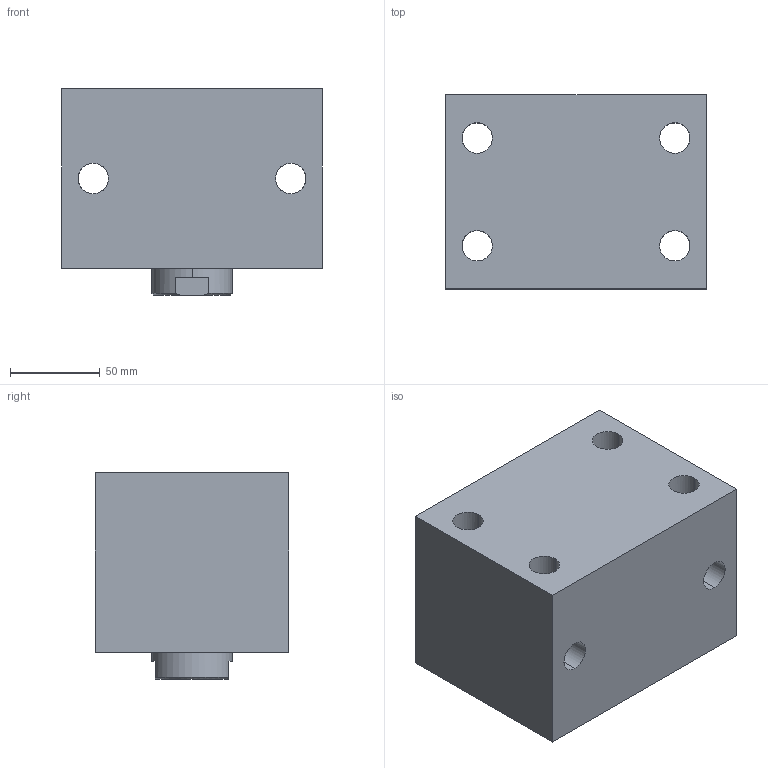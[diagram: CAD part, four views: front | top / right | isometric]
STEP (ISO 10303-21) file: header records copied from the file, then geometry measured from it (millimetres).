
FILE_DESCRIPTION (( 'STEP AP203' ), '1' );
FILE_NAME ('Block cylinder B01C-725F.STEP', '2022-07-09T18:35:43', ( '' ), ( '' ), 'SwSTEP 2.0', 'SolidWorks 2017', '' );
FILE_SCHEMA (( 'CONFIG_CONTROL_DESIGN' ));
Length unit declared in the file: millimetre
Products named in the file (3): Body_ 725F_50ST; Piston _725F; Block cylinder B01C-725F
Assembly tree (2 placements, depth 2):
  Block cylinder B01C-725F
    Body_ 725F_50ST
    Piston _725F
Bounding box: 145 x 108 x 115 mm (x, y, z)
Volume: 1549736.7 mm3; surface area: 142824.4 mm2
Topology: 2 solids, 2 shells, 339 faces, 930 edges, 607 vertices
Faces by surface type: plane 146, bspline 141, cylinder 44, cone 8
Entity records: 16747 total; most frequent: CARTESIAN_POINT 8864, ORIENTED_EDGE 1848, DIRECTION 1074, EDGE_CURVE 924, VERTEX_POINT 607, LINE 544, VECTOR 544, EDGE_LOOP 377
